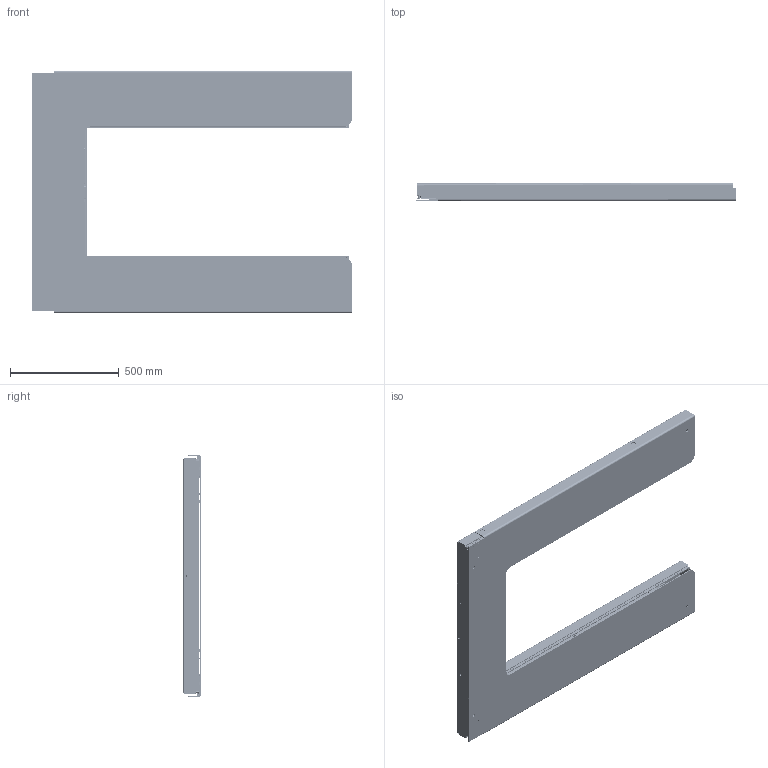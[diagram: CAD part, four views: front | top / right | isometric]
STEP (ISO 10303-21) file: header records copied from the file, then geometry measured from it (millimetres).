
FILE_DESCRIPTION(/* description */ ('CUB 1000'),/* implementation_level */ '2;1');
FILE_NAME(/* name */ 'C:\Autodesk_VaultWork\Ritningar\tmp\34858_Collapsed.stp',/* time_stamp */ '2018-07-24T08:19:41+02:00',/* author */ ('johso'),/* organization */ (''),/* preprocessor_version */ 'ST-DEVELOPER v16.5',/* originating_system */ 'Autodesk Inventor 2017',/* authorisation */ '');
FILE_SCHEMA (('AUTOMOTIVE_DESIGN { 1 0 10303 214 3 1 1 }'));
Products named in the file (35): 22003.tmp; 35316; 35317; 43469C; 44843; 22000; 34643; 34644; 34645; 43341; 43342C; 83572 - 130; 43039; 43471; 44572; 43229; 84207; 33213; 33214; 33215; 42949C; 43360; 32233; 43056-1050; 43056-1420; 43056-218; 43056-1190; 43056-590; 33990; 42330; 44510; 84088; 43481; 34750; 32497
Assembly tree (106 placements, depth 4):
  22003.tmp
    35316
      35317
      44843  x4
      43469C  x2
    22000
      34643
      34644
      34645
      44572  x4
      43341  x2
        43342C
        83572 - 130
      43039  x2
      43471
      43229  x5
      84207  x10
    33213
      33214  x2
      33215  x2
      42949C  x8
      43360
    34750  x2
      32497
    32233
      43056-1050
      43056-1420  x2
      43056-218  x2
      43056-1190  x2
      43056-590
      33990  x4
      42330  x9
      44510  x8
      84088  x9
      43481  x9
Bounding box: 1470 x 82.33 x 1111.73 mm (x, y, z)
Volume: 19884695.9 mm3; surface area: 8384862.7 mm2
Topology: 104 solids, 120 shells, 7645 faces, 20833 edges, 13676 vertices
Faces by surface type: plane 4253, cylinder 2086, bspline 995, cone 214, torus 97
Full cylindrical faces by diameter (mm): 0.474 x4, 1 x8, 3 x8, 3.141 x8, 3.2 x8, 4 x32, 4.3 x8, 4.7 x2, 4.9 x4, 4.917 x9, 5 x8, 5.2 x12, 5.3 x4, 6 x10, 7.4 x4, 7.6 x8, 8 x16, 8.5 x13, 8.88 x10, 8.9 x9, 9.5 x4, 10 x23, 10.1 x4, 10.2 x2, 10.5 x21, 11 x4, 13 x4, 16 x16, 20 x4, 20.1 x4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
Entity records: 79320 total; most frequent: CARTESIAN_POINT 22295, ORIENTED_EDGE 11662, DIRECTION 10865, EDGE_CURVE 5825, VERTEX_POINT 3892, LINE 3797, VECTOR 3797, AXIS2_PLACEMENT_3D 3534
